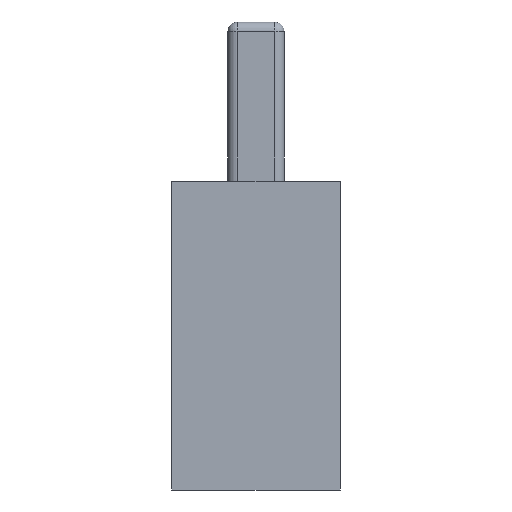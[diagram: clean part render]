
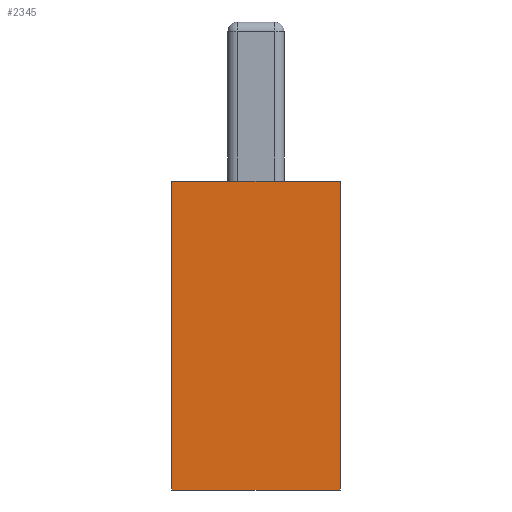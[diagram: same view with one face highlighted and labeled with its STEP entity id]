
A CAD part, left-side view. The second image highlights one B-rep face of the part: STEP entity #2345.
In plain terms, the highlighted planar face has unit normal (-1, 0, 0).
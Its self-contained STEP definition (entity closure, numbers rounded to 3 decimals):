
#408 = PLANE('',#409);
#409 = AXIS2_PLACEMENT_3D('',#410,#411,#412);
#410 = CARTESIAN_POINT('',(-7.4,-1.5,-30.));
#411 = DIRECTION('',(0.,0.,-1.));
#412 = DIRECTION('',(-1.,0.,-0.));
#1758 = PLANE('',#1759);
#1759 = AXIS2_PLACEMENT_3D('',#1760,#1761,#1762);
#1760 = CARTESIAN_POINT('',(-10.4,-9.,0.));
#1761 = DIRECTION('',(0.,1.,0.));
#1762 = DIRECTION('',(0.,-0.,1.));
#1818 = VERTEX_POINT('',#1819);
#1819 = CARTESIAN_POINT('',(-10.4,-9.,-30.));
#1840 = EDGE_CURVE('',#1841,#1818,#1843,.T.);
#1841 = VERTEX_POINT('',#1842);
#1842 = CARTESIAN_POINT('',(-10.4,9.,-30.));
#1843 = SURFACE_CURVE('',#1844,(#1848,#1855),.PCURVE_S1.);
#1844 = LINE('',#1845,#1846);
#1845 = CARTESIAN_POINT('',(-10.4,-9.,-30.));
#1846 = VECTOR('',#1847,1.);
#1847 = DIRECTION('',(-0.,-1.,-0.));
#1848 = PCURVE('',#408,#1849);
#1849 = DEFINITIONAL_REPRESENTATION('',(#1850),#1854);
#1850 = LINE('',#1851,#1852);
#1851 = CARTESIAN_POINT('',(3.,-7.5));
#1852 = VECTOR('',#1853,1.);
#1853 = DIRECTION('',(0.,-1.));
#1854 = ( GEOMETRIC_REPRESENTATION_CONTEXT(2) 
PARAMETRIC_REPRESENTATION_CONTEXT() REPRESENTATION_CONTEXT('2D SPACE',''
  ) );
#1855 = PCURVE('',#1856,#1861);
#1856 = PLANE('',#1857);
#1857 = AXIS2_PLACEMENT_3D('',#1858,#1859,#1860);
#1858 = CARTESIAN_POINT('',(-10.4,0.,0.));
#1859 = DIRECTION('',(-1.,0.,-0.));
#1860 = DIRECTION('',(0.,0.,1.));
#1861 = DEFINITIONAL_REPRESENTATION('',(#1862),#1866);
#1862 = LINE('',#1863,#1864);
#1863 = CARTESIAN_POINT('',(-30.,-9.));
#1864 = VECTOR('',#1865,1.);
#1865 = DIRECTION('',(0.,-1.));
#1866 = ( GEOMETRIC_REPRESENTATION_CONTEXT(2) 
PARAMETRIC_REPRESENTATION_CONTEXT() REPRESENTATION_CONTEXT('2D SPACE',''
  ) );
#1884 = PLANE('',#1885);
#1885 = AXIS2_PLACEMENT_3D('',#1886,#1887,#1888);
#1886 = CARTESIAN_POINT('',(-10.4,9.,0.));
#1887 = DIRECTION('',(0.,-1.,0.));
#1888 = DIRECTION('',(0.,0.,-1.));
#2159 = VERTEX_POINT('',#2160);
#2160 = CARTESIAN_POINT('',(-10.4,-9.,3.));
#2174 = PLANE('',#2175);
#2175 = AXIS2_PLACEMENT_3D('',#2176,#2177,#2178);
#2176 = CARTESIAN_POINT('',(0.,0.,3.));
#2177 = DIRECTION('',(-0.,0.,1.));
#2178 = DIRECTION('',(1.,0.,0.));
#2186 = EDGE_CURVE('',#1818,#2159,#2187,.T.);
#2187 = SURFACE_CURVE('',#2188,(#2192,#2199),.PCURVE_S1.);
#2188 = LINE('',#2189,#2190);
#2189 = CARTESIAN_POINT('',(-10.4,-9.,0.));
#2190 = VECTOR('',#2191,1.);
#2191 = DIRECTION('',(-0.,-0.,1.));
#2192 = PCURVE('',#1758,#2193);
#2193 = DEFINITIONAL_REPRESENTATION('',(#2194),#2198);
#2194 = LINE('',#2195,#2196);
#2195 = CARTESIAN_POINT('',(0.,0.));
#2196 = VECTOR('',#2197,1.);
#2197 = DIRECTION('',(1.,-0.));
#2198 = ( GEOMETRIC_REPRESENTATION_CONTEXT(2) 
PARAMETRIC_REPRESENTATION_CONTEXT() REPRESENTATION_CONTEXT('2D SPACE',''
  ) );
#2199 = PCURVE('',#1856,#2200);
#2200 = DEFINITIONAL_REPRESENTATION('',(#2201),#2205);
#2201 = LINE('',#2202,#2203);
#2202 = CARTESIAN_POINT('',(0.,-9.));
#2203 = VECTOR('',#2204,1.);
#2204 = DIRECTION('',(1.,0.));
#2205 = ( GEOMETRIC_REPRESENTATION_CONTEXT(2) 
PARAMETRIC_REPRESENTATION_CONTEXT() REPRESENTATION_CONTEXT('2D SPACE',''
  ) );
#2210 = EDGE_CURVE('',#2211,#1841,#2213,.T.);
#2211 = VERTEX_POINT('',#2212);
#2212 = CARTESIAN_POINT('',(-10.4,9.,3.));
#2213 = SURFACE_CURVE('',#2214,(#2218,#2225),.PCURVE_S1.);
#2214 = LINE('',#2215,#2216);
#2215 = CARTESIAN_POINT('',(-10.4,9.,0.));
#2216 = VECTOR('',#2217,1.);
#2217 = DIRECTION('',(0.,0.,-1.));
#2218 = PCURVE('',#1884,#2219);
#2219 = DEFINITIONAL_REPRESENTATION('',(#2220),#2224);
#2220 = LINE('',#2221,#2222);
#2221 = CARTESIAN_POINT('',(0.,0.));
#2222 = VECTOR('',#2223,1.);
#2223 = DIRECTION('',(1.,0.));
#2224 = ( GEOMETRIC_REPRESENTATION_CONTEXT(2) 
PARAMETRIC_REPRESENTATION_CONTEXT() REPRESENTATION_CONTEXT('2D SPACE',''
  ) );
#2225 = PCURVE('',#1856,#2226);
#2226 = DEFINITIONAL_REPRESENTATION('',(#2227),#2231);
#2227 = LINE('',#2228,#2229);
#2228 = CARTESIAN_POINT('',(0.,9.));
#2229 = VECTOR('',#2230,1.);
#2230 = DIRECTION('',(-1.,0.));
#2231 = ( GEOMETRIC_REPRESENTATION_CONTEXT(2) 
PARAMETRIC_REPRESENTATION_CONTEXT() REPRESENTATION_CONTEXT('2D SPACE',''
  ) );
#2345 = ADVANCED_FACE('',(#2346),#1856,.T.);
#2346 = FACE_BOUND('',#2347,.T.);
#2347 = EDGE_LOOP('',(#2348,#2349,#2350,#2371));
#2348 = ORIENTED_EDGE('',*,*,#1840,.T.);
#2349 = ORIENTED_EDGE('',*,*,#2186,.T.);
#2350 = ORIENTED_EDGE('',*,*,#2351,.F.);
#2351 = EDGE_CURVE('',#2211,#2159,#2352,.T.);
#2352 = SURFACE_CURVE('',#2353,(#2357,#2364),.PCURVE_S1.);
#2353 = LINE('',#2354,#2355);
#2354 = CARTESIAN_POINT('',(-10.4,9.,3.));
#2355 = VECTOR('',#2356,1.);
#2356 = DIRECTION('',(0.,-1.,0.));
#2357 = PCURVE('',#1856,#2358);
#2358 = DEFINITIONAL_REPRESENTATION('',(#2359),#2363);
#2359 = LINE('',#2360,#2361);
#2360 = CARTESIAN_POINT('',(3.,9.));
#2361 = VECTOR('',#2362,1.);
#2362 = DIRECTION('',(0.,-1.));
#2363 = ( GEOMETRIC_REPRESENTATION_CONTEXT(2) 
PARAMETRIC_REPRESENTATION_CONTEXT() REPRESENTATION_CONTEXT('2D SPACE',''
  ) );
#2364 = PCURVE('',#2174,#2365);
#2365 = DEFINITIONAL_REPRESENTATION('',(#2366),#2370);
#2366 = LINE('',#2367,#2368);
#2367 = CARTESIAN_POINT('',(-10.4,9.));
#2368 = VECTOR('',#2369,1.);
#2369 = DIRECTION('',(0.,-1.));
#2370 = ( GEOMETRIC_REPRESENTATION_CONTEXT(2) 
PARAMETRIC_REPRESENTATION_CONTEXT() REPRESENTATION_CONTEXT('2D SPACE',''
  ) );
#2371 = ORIENTED_EDGE('',*,*,#2210,.T.);
